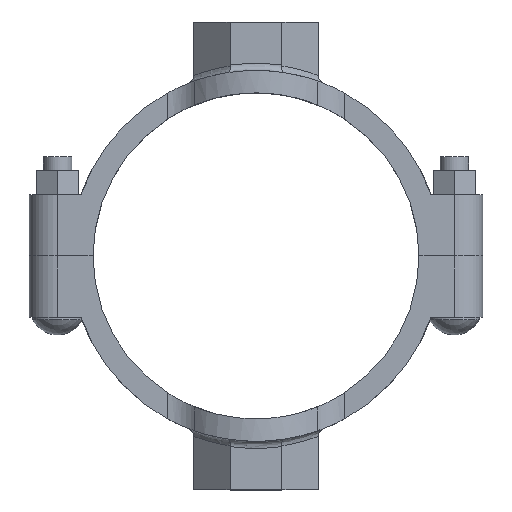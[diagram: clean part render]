
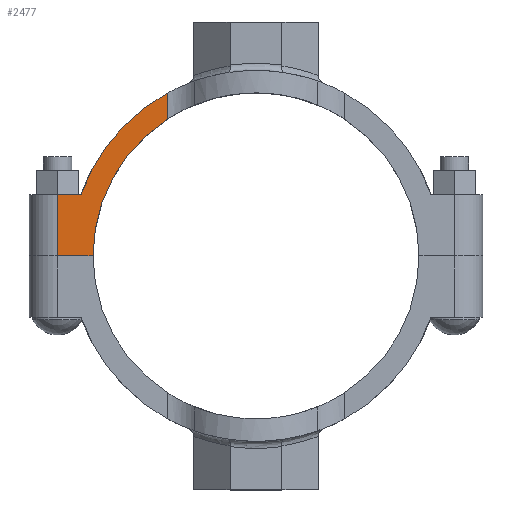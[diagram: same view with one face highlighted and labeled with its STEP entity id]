
A CAD part, top view. The second image highlights one B-rep face of the part: STEP entity #2477.
In plain terms, the highlighted planar face has unit normal (0, 0, 1) as drawn and (0, 0, -1) by its records, which use the part's own axes.
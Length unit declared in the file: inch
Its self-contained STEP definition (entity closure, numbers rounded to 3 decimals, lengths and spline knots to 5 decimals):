
#245=FACE_OUTER_BOUND('',#386,.T.);
#386=EDGE_LOOP('',(#1788,#1789,#1790,#1791,#1792,#1793));
#558=LINE('',#4320,#744);
#559=LINE('',#4322,#745);
#560=LINE('',#4324,#746);
#561=LINE('',#4325,#747);
#744=VECTOR('',#3144,0.3937);
#745=VECTOR('',#3145,0.3937);
#746=VECTOR('',#3146,0.3937);
#747=VECTOR('',#3147,0.3937);
#865=CIRCLE('',#2665,4.906);
#889=CIRCLE('',#2717,4.3125);
#998=VERTEX_POINT('',#3956);
#999=VERTEX_POINT('',#3958);
#1046=VERTEX_POINT('',#4241);
#1047=VERTEX_POINT('',#4254);
#1056=VERTEX_POINT('',#4321);
#1057=VERTEX_POINT('',#4323);
#1255=EDGE_CURVE('',#999,#998,#865,.T.);
#1324=EDGE_CURVE('',#1047,#1046,#889,.T.);
#1336=EDGE_CURVE('',#1046,#999,#558,.T.);
#1337=EDGE_CURVE('',#998,#1056,#559,.T.);
#1338=EDGE_CURVE('',#1057,#1056,#560,.T.);
#1339=EDGE_CURVE('',#1057,#1047,#561,.T.);
#1788=ORIENTED_EDGE('',*,*,#1324,.T.);
#1789=ORIENTED_EDGE('',*,*,#1336,.T.);
#1790=ORIENTED_EDGE('',*,*,#1255,.T.);
#1791=ORIENTED_EDGE('',*,*,#1337,.T.);
#1792=ORIENTED_EDGE('',*,*,#1338,.F.);
#1793=ORIENTED_EDGE('',*,*,#1339,.T.);
#2249=PLANE('',#2721);
#2477=ADVANCED_FACE('',(#245),#2249,.T.);
#2665=AXIS2_PLACEMENT_3D('',#3959,#2986,#2987);
#2717=AXIS2_PLACEMENT_3D('',#4255,#3128,#3129);
#2721=AXIS2_PLACEMENT_3D('',#4319,#3142,#3143);
#2986=DIRECTION('center_axis',(0.,0.,-1.));
#2987=DIRECTION('ref_axis',(0.944,0.331,0.));
#3128=DIRECTION('center_axis',(0.,0.,1.));
#3129=DIRECTION('ref_axis',(-1.,0.,0.));
#3142=DIRECTION('center_axis',(0.,0.,-1.));
#3143=DIRECTION('ref_axis',(-1.,0.,0.));
#3144=DIRECTION('',(0.,1.,0.));
#3145=DIRECTION('',(1.,0.,0.));
#3146=DIRECTION('',(0.,1.,0.));
#3147=DIRECTION('',(-1.,0.,0.));
#3956=CARTESIAN_POINT('',(4.62906,1.625,-1.25));
#3958=CARTESIAN_POINT('',(2.34521,4.30916,-1.25));
#3959=CARTESIAN_POINT('Origin',(0.,0.,-1.25));
#4241=CARTESIAN_POINT('',(2.34521,3.61907,-1.25));
#4254=CARTESIAN_POINT('',(4.3125,0.,-1.25));
#4255=CARTESIAN_POINT('Origin',(0.,0.,-1.25));
#4319=CARTESIAN_POINT('Origin',(5.25,0.,-1.25));
#4320=CARTESIAN_POINT('',(2.34521,0.,-1.25));
#4321=CARTESIAN_POINT('',(5.25,1.625,-1.25));
#4322=CARTESIAN_POINT('',(4.93953,1.625,-1.25));
#4323=CARTESIAN_POINT('',(5.25,0.,-1.25));
#4324=CARTESIAN_POINT('',(5.25,0.,-1.25));
#4325=CARTESIAN_POINT('',(5.25,0.,-1.25));
